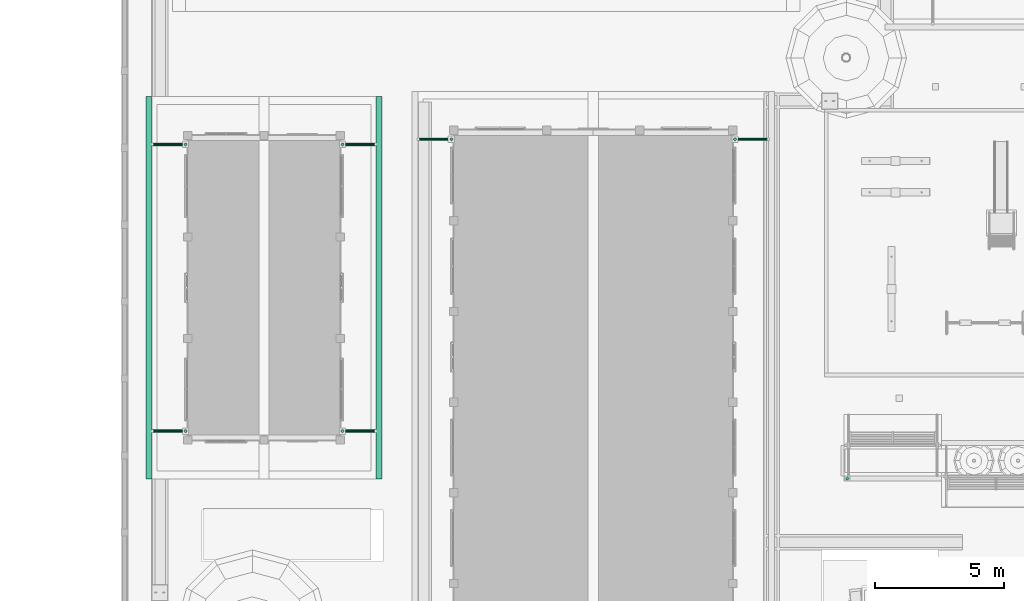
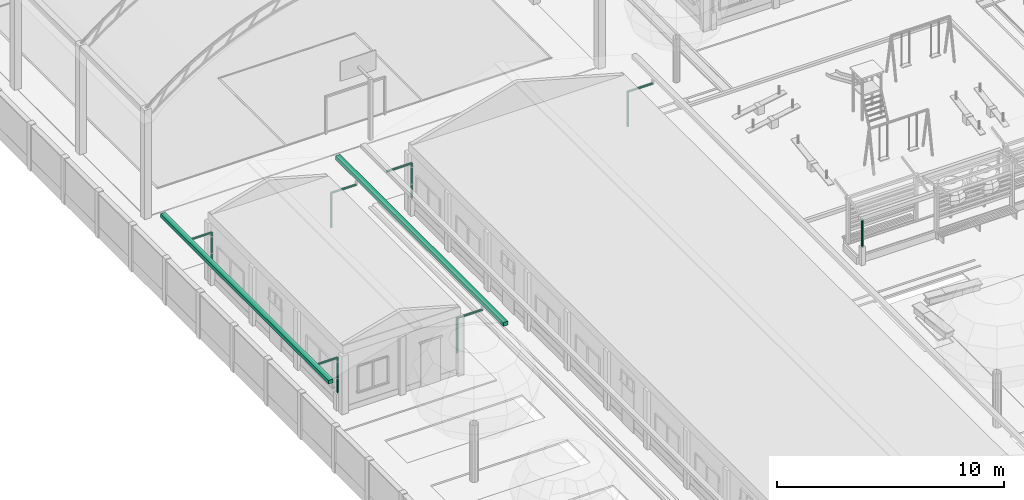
# One storey, part 104 of 177: 15 pipe segments.
"""IFC4 building model written with IfcOpenShell, lengths in metres."""

from ifc_helpers import new_model, si_unit, origin, origin_with_axes, place, context, subcontext, project, spatial, triangles, element, save


model = new_model("IFC4")

# Units and contexts
model_context = context("Model", 3, precision=1e-05, world=origin_with_axes())
body_context = subcontext(model_context, "Body", "Model", "MODEL_VIEW")
ifc_project = project(units=[si_unit("LENGTHUNIT", "METRE"), si_unit("AREAUNIT", "SQUARE_METRE"), si_unit("VOLUMEUNIT", "CUBIC_METRE"), si_unit("PLANEANGLEUNIT", "RADIAN")], contexts=[model_context])

# Site, building, storey
site_placement = place(None, origin_with_axes())
site = spatial("IfcSite", under=ifc_project, at=site_placement, Name="Predio Los Mangos - Morales, San Martín", CompositionType="ELEMENT")
building_placement = place(site_placement, origin())
building = spatial("IfcBuilding", under=site, at=building_placement, Name="Hogar de Refugio Temporal", CompositionType="ELEMENT")
storey_placement = place(building_placement, origin())
storey = spatial("IfcBuildingStorey", under=building, at=storey_placement, Name="NIVEL 1 (NPT +0.00)", CompositionType="ELEMENT", Elevation=0.0)

# Pipe segments
pipe_segment_1_placement = place(storey_placement, origin())
element("IfcPipeSegment", 1, at=pipe_segment_1_placement, inside=storey, Name="E-09_canaleta", ObjectType="Canaleta", PredefinedType="GUTTER", context=body_context, shape_type="Tessellation", body=[
    triangles([(1.88, 73.7, 3.13), (2.12, 73.7, 3.13), (2.12, 88.5, 3.13), (1.88, 88.5, 3.13), (1.88, 73.7, 3.33), (2.12, 73.7, 3.33), (2.12, 88.5, 3.33), (1.88, 88.5, 3.33)], [[1, 4, 3], [1, 3, 2], [5, 6, 7], [5, 7, 8], [1, 2, 6], [1, 6, 5], [2, 3, 7], [2, 7, 6], [3, 4, 8], [3, 8, 7], [4, 1, 5], [4, 5, 8]]),
])
pipe_segment_2_placement = place(storey_placement, origin())
element("IfcPipeSegment", 2, at=pipe_segment_2_placement, inside=storey, Name="E-09_canaleta", ObjectType="Canaleta", PredefinedType="GUTTER", context=body_context, shape_type="Tessellation", body=[
    triangles([(10.78, 73.7, 3.13), (11.02, 73.7, 3.13), (11.02, 88.5, 3.13), (10.78, 88.5, 3.13), (10.78, 73.7, 3.33), (11.02, 73.7, 3.33), (11.02, 88.5, 3.33), (10.78, 88.5, 3.33)], [[1, 4, 3], [1, 3, 2], [5, 6, 7], [5, 7, 8], [1, 2, 6], [1, 6, 5], [2, 3, 7], [2, 7, 6], [3, 4, 8], [3, 8, 7], [4, 1, 5], [4, 5, 8]]),
])
pipe_segment_3_placement = place(storey_placement, origin())
element("IfcPipeSegment", 3, at=pipe_segment_3_placement, inside=storey, Name="montante_desvio", ObjectType="Montante PVC 4\"", PredefinedType="RIGIDSEGMENT", context=body_context, shape_type="Tessellation", body=[
    triangles([(12.42, 86.85, 2.965), (13.71, 86.85, 2.965), (12.42, 86.8775, 2.9576), (13.71, 86.8775, 2.9576), (12.42, 86.8976, 2.9375), (13.71, 86.8976, 2.9375), (12.42, 86.905, 2.91), (13.71, 86.905, 2.91), (12.42, 86.8976, 2.8825), (13.71, 86.8976, 2.8825), (12.42, 86.8775, 2.8624), (13.71, 86.8775, 2.8624), (12.42, 86.85, 2.855), (13.71, 86.85, 2.855), (12.42, 86.8225, 2.8624), (13.71, 86.8225, 2.8624), (12.42, 86.8024, 2.8825), (13.71, 86.8024, 2.8825), (12.42, 86.795, 2.91), (13.71, 86.795, 2.91), (12.42, 86.8024, 2.9375), (13.71, 86.8024, 2.9375), (12.42, 86.8225, 2.9576), (13.71, 86.8225, 2.9576)], [[1, 2, 4], [1, 4, 3], [3, 4, 6], [3, 6, 5], [5, 6, 8], [5, 8, 7], [7, 8, 10], [7, 10, 9], [9, 10, 12], [9, 12, 11], [11, 12, 14], [11, 14, 13], [13, 14, 16], [13, 16, 15], [15, 16, 18], [15, 18, 17], [17, 18, 20], [17, 20, 19], [19, 20, 22], [19, 22, 21], [6, 4, 2], [2, 24, 22], [22, 20, 18], [18, 16, 14], [14, 12, 10], [10, 8, 6], [6, 2, 22], [22, 18, 14], [14, 10, 6], [22, 14, 6], [21, 22, 24], [21, 24, 23], [23, 24, 2], [23, 2, 1], [23, 1, 3], [3, 5, 7], [7, 9, 11], [11, 13, 15], [15, 17, 19], [19, 21, 23], [23, 3, 7], [7, 11, 15], [15, 19, 23], [7, 15, 23]]),
])
pipe_segment_4_placement = place(storey_placement, origin())
element("IfcPipeSegment", 4, at=pipe_segment_4_placement, inside=storey, Name="montante_bajada", ObjectType="Montante PVC 4\"", PredefinedType="RIGIDSEGMENT", context=body_context, shape_type="Tessellation", body=[
    triangles([(13.71, 86.905, 2.91), (13.71, 86.905, 1.05), (13.6825, 86.8976, 2.91), (13.6825, 86.8976, 1.05), (13.6624, 86.8775, 2.91), (13.6624, 86.8775, 1.05), (13.655, 86.85, 2.91), (13.655, 86.85, 1.05), (13.6624, 86.8225, 2.91), (13.6624, 86.8225, 1.05), (13.6825, 86.8024, 2.91), (13.6825, 86.8024, 1.05), (13.71, 86.795, 2.91), (13.71, 86.795, 1.05), (13.7375, 86.8024, 2.91), (13.7375, 86.8024, 1.05), (13.7576, 86.8225, 2.91), (13.7576, 86.8225, 1.05), (13.765, 86.85, 2.91), (13.765, 86.85, 1.05), (13.7576, 86.8775, 2.91), (13.7576, 86.8775, 1.05), (13.7375, 86.8976, 2.91), (13.7375, 86.8976, 1.05)], [[1, 2, 4], [1, 4, 3], [3, 4, 6], [3, 6, 5], [5, 6, 8], [5, 8, 7], [7, 8, 10], [7, 10, 9], [9, 10, 12], [9, 12, 11], [11, 12, 14], [11, 14, 13], [13, 14, 16], [13, 16, 15], [15, 16, 18], [15, 18, 17], [17, 18, 20], [17, 20, 19], [19, 20, 22], [19, 22, 21], [6, 4, 2], [2, 24, 22], [22, 20, 18], [18, 16, 14], [14, 12, 10], [10, 8, 6], [6, 2, 22], [22, 18, 14], [14, 10, 6], [22, 14, 6], [21, 22, 24], [21, 24, 23], [23, 24, 2], [23, 2, 1], [23, 1, 3], [3, 5, 7], [7, 9, 11], [11, 13, 15], [15, 17, 19], [19, 21, 23], [23, 3, 7], [7, 11, 15], [15, 19, 23], [7, 15, 23]]),
])
pipe_segment_5_placement = place(storey_placement, origin())
element("IfcPipeSegment", 5, at=pipe_segment_5_placement, inside=storey, Name="montante_desvio", ObjectType="Montante PVC 4\"", PredefinedType="RIGIDSEGMENT", context=body_context, shape_type="Tessellation", body=[
    triangles([(25.98, 86.85, 2.965), (24.69, 86.85, 2.965), (25.98, 86.8225, 2.9576), (24.69, 86.8225, 2.9576), (25.98, 86.8024, 2.9375), (24.69, 86.8024, 2.9375), (25.98, 86.795, 2.91), (24.69, 86.795, 2.91), (25.98, 86.8024, 2.8825), (24.69, 86.8024, 2.8825), (25.98, 86.8225, 2.8624), (24.69, 86.8225, 2.8624), (25.98, 86.85, 2.855), (24.69, 86.85, 2.855), (25.98, 86.8775, 2.8624), (24.69, 86.8775, 2.8624), (25.98, 86.8976, 2.8825), (24.69, 86.8976, 2.8825), (25.98, 86.905, 2.91), (24.69, 86.905, 2.91), (25.98, 86.8976, 2.9375), (24.69, 86.8976, 2.9375), (25.98, 86.8775, 2.9576), (24.69, 86.8775, 2.9576)], [[1, 2, 4], [1, 4, 3], [3, 4, 6], [3, 6, 5], [5, 6, 8], [5, 8, 7], [7, 8, 10], [7, 10, 9], [9, 10, 12], [9, 12, 11], [11, 12, 14], [11, 14, 13], [13, 14, 16], [13, 16, 15], [15, 16, 18], [15, 18, 17], [17, 18, 20], [17, 20, 19], [19, 20, 22], [19, 22, 21], [6, 4, 2], [2, 24, 22], [22, 20, 18], [18, 16, 14], [14, 12, 10], [10, 8, 6], [6, 2, 22], [22, 18, 14], [14, 10, 6], [22, 14, 6], [21, 22, 24], [21, 24, 23], [23, 24, 2], [23, 2, 1], [23, 1, 3], [3, 5, 7], [7, 9, 11], [11, 13, 15], [15, 17, 19], [19, 21, 23], [23, 3, 7], [7, 11, 15], [15, 19, 23], [7, 15, 23]]),
])
pipe_segment_6_placement = place(storey_placement, origin())
element("IfcPipeSegment", 6, at=pipe_segment_6_placement, inside=storey, Name="montante_bajada", ObjectType="Montante PVC 4\"", PredefinedType="RIGIDSEGMENT", context=body_context, shape_type="Tessellation", body=[
    triangles([(24.69, 86.905, 2.91), (24.69, 86.905, 1.05), (24.6625, 86.8976, 2.91), (24.6625, 86.8976, 1.05), (24.6424, 86.8775, 2.91), (24.6424, 86.8775, 1.05), (24.635, 86.85, 2.91), (24.635, 86.85, 1.05), (24.6424, 86.8225, 2.91), (24.6424, 86.8225, 1.05), (24.6625, 86.8024, 2.91), (24.6625, 86.8024, 1.05), (24.69, 86.795, 2.91), (24.69, 86.795, 1.05), (24.7175, 86.8024, 2.91), (24.7175, 86.8024, 1.05), (24.7376, 86.8225, 2.91), (24.7376, 86.8225, 1.05), (24.745, 86.85, 2.91), (24.745, 86.85, 1.05), (24.7376, 86.8775, 2.91), (24.7376, 86.8775, 1.05), (24.7175, 86.8976, 2.91), (24.7175, 86.8976, 1.05)], [[1, 2, 4], [1, 4, 3], [3, 4, 6], [3, 6, 5], [5, 6, 8], [5, 8, 7], [7, 8, 10], [7, 10, 9], [9, 10, 12], [9, 12, 11], [11, 12, 14], [11, 14, 13], [13, 14, 16], [13, 16, 15], [15, 16, 18], [15, 18, 17], [17, 18, 20], [17, 20, 19], [19, 20, 22], [19, 22, 21], [6, 4, 2], [2, 24, 22], [22, 20, 18], [18, 16, 14], [14, 12, 10], [10, 8, 6], [6, 2, 22], [22, 18, 14], [14, 10, 6], [22, 14, 6], [21, 22, 24], [21, 24, 23], [23, 24, 2], [23, 2, 1], [23, 1, 3], [3, 5, 7], [7, 9, 11], [11, 13, 15], [15, 17, 19], [19, 21, 23], [23, 3, 7], [7, 11, 15], [15, 19, 23], [7, 15, 23]]),
])
pipe_segment_7_placement = place(storey_placement, origin())
element("IfcPipeSegment", 7, at=pipe_segment_7_placement, inside=storey, Name="montante_desvio", ObjectType="Montante PVC 4\"", PredefinedType="RIGIDSEGMENT", context=body_context, shape_type="Tessellation", body=[
    triangles([(2.12, 75.55, 2.965), (3.41, 75.55, 2.965), (2.12, 75.5775, 2.9576), (3.41, 75.5775, 2.9576), (2.12, 75.5976, 2.9375), (3.41, 75.5976, 2.9375), (2.12, 75.605, 2.91), (3.41, 75.605, 2.91), (2.12, 75.5976, 2.8825), (3.41, 75.5976, 2.8825), (2.12, 75.5775, 2.8624), (3.41, 75.5775, 2.8624), (2.12, 75.55, 2.855), (3.41, 75.55, 2.855), (2.12, 75.5225, 2.8624), (3.41, 75.5225, 2.8624), (2.12, 75.5024, 2.8825), (3.41, 75.5024, 2.8825), (2.12, 75.495, 2.91), (3.41, 75.495, 2.91), (2.12, 75.5024, 2.9375), (3.41, 75.5024, 2.9375), (2.12, 75.5225, 2.9576), (3.41, 75.5225, 2.9576)], [[1, 2, 4], [1, 4, 3], [3, 4, 6], [3, 6, 5], [5, 6, 8], [5, 8, 7], [7, 8, 10], [7, 10, 9], [9, 10, 12], [9, 12, 11], [11, 12, 14], [11, 14, 13], [13, 14, 16], [13, 16, 15], [15, 16, 18], [15, 18, 17], [17, 18, 20], [17, 20, 19], [19, 20, 22], [19, 22, 21], [6, 4, 2], [2, 24, 22], [22, 20, 18], [18, 16, 14], [14, 12, 10], [10, 8, 6], [6, 2, 22], [22, 18, 14], [14, 10, 6], [22, 14, 6], [21, 22, 24], [21, 24, 23], [23, 24, 2], [23, 2, 1], [23, 1, 3], [3, 5, 7], [7, 9, 11], [11, 13, 15], [15, 17, 19], [19, 21, 23], [23, 3, 7], [7, 11, 15], [15, 19, 23], [7, 15, 23]]),
])
pipe_segment_8_placement = place(storey_placement, origin())
element("IfcPipeSegment", 8, at=pipe_segment_8_placement, inside=storey, Name="montante_bajada", ObjectType="Montante PVC 4\"", PredefinedType="RIGIDSEGMENT", context=body_context, shape_type="Tessellation", body=[
    triangles([(3.41, 75.605, 2.91), (3.41, 75.605, 1.05), (3.3825, 75.5976, 2.91), (3.3825, 75.5976, 1.05), (3.3624, 75.5775, 2.91), (3.3624, 75.5775, 1.05), (3.355, 75.55, 2.91), (3.355, 75.55, 1.05), (3.3624, 75.5225, 2.91), (3.3624, 75.5225, 1.05), (3.3825, 75.5024, 2.91), (3.3825, 75.5024, 1.05), (3.41, 75.495, 2.91), (3.41, 75.495, 1.05), (3.4375, 75.5024, 2.91), (3.4375, 75.5024, 1.05), (3.4576, 75.5225, 2.91), (3.4576, 75.5225, 1.05), (3.465, 75.55, 2.91), (3.465, 75.55, 1.05), (3.4576, 75.5775, 2.91), (3.4576, 75.5775, 1.05), (3.4375, 75.5976, 2.91), (3.4375, 75.5976, 1.05)], [[1, 2, 4], [1, 4, 3], [3, 4, 6], [3, 6, 5], [5, 6, 8], [5, 8, 7], [7, 8, 10], [7, 10, 9], [9, 10, 12], [9, 12, 11], [11, 12, 14], [11, 14, 13], [13, 14, 16], [13, 16, 15], [15, 16, 18], [15, 18, 17], [17, 18, 20], [17, 20, 19], [19, 20, 22], [19, 22, 21], [6, 4, 2], [2, 24, 22], [22, 20, 18], [18, 16, 14], [14, 12, 10], [10, 8, 6], [6, 2, 22], [22, 18, 14], [14, 10, 6], [22, 14, 6], [21, 22, 24], [21, 24, 23], [23, 24, 2], [23, 2, 1], [23, 1, 3], [3, 5, 7], [7, 9, 11], [11, 13, 15], [15, 17, 19], [19, 21, 23], [23, 3, 7], [7, 11, 15], [15, 19, 23], [7, 15, 23]]),
])
pipe_segment_9_placement = place(storey_placement, origin())
element("IfcPipeSegment", 9, at=pipe_segment_9_placement, inside=storey, Name="montante_desvio", ObjectType="Montante PVC 4\"", PredefinedType="RIGIDSEGMENT", context=body_context, shape_type="Tessellation", body=[
    triangles([(2.12, 86.65, 2.965), (3.41, 86.65, 2.965), (2.12, 86.6775, 2.9576), (3.41, 86.6775, 2.9576), (2.12, 86.6976, 2.9375), (3.41, 86.6976, 2.9375), (2.12, 86.705, 2.91), (3.41, 86.705, 2.91), (2.12, 86.6976, 2.8825), (3.41, 86.6976, 2.8825), (2.12, 86.6775, 2.8624), (3.41, 86.6775, 2.8624), (2.12, 86.65, 2.855), (3.41, 86.65, 2.855), (2.12, 86.6225, 2.8624), (3.41, 86.6225, 2.8624), (2.12, 86.6024, 2.8825), (3.41, 86.6024, 2.8825), (2.12, 86.595, 2.91), (3.41, 86.595, 2.91), (2.12, 86.6024, 2.9375), (3.41, 86.6024, 2.9375), (2.12, 86.6225, 2.9576), (3.41, 86.6225, 2.9576)], [[1, 2, 4], [1, 4, 3], [3, 4, 6], [3, 6, 5], [5, 6, 8], [5, 8, 7], [7, 8, 10], [7, 10, 9], [9, 10, 12], [9, 12, 11], [11, 12, 14], [11, 14, 13], [13, 14, 16], [13, 16, 15], [15, 16, 18], [15, 18, 17], [17, 18, 20], [17, 20, 19], [19, 20, 22], [19, 22, 21], [6, 4, 2], [2, 24, 22], [22, 20, 18], [18, 16, 14], [14, 12, 10], [10, 8, 6], [6, 2, 22], [22, 18, 14], [14, 10, 6], [22, 14, 6], [21, 22, 24], [21, 24, 23], [23, 24, 2], [23, 2, 1], [23, 1, 3], [3, 5, 7], [7, 9, 11], [11, 13, 15], [15, 17, 19], [19, 21, 23], [23, 3, 7], [7, 11, 15], [15, 19, 23], [7, 15, 23]]),
])
pipe_segment_10_placement = place(storey_placement, origin())
element("IfcPipeSegment", 10, at=pipe_segment_10_placement, inside=storey, Name="montante_bajada", ObjectType="Montante PVC 4\"", PredefinedType="RIGIDSEGMENT", context=body_context, shape_type="Tessellation", body=[
    triangles([(3.41, 86.705, 2.91), (3.41, 86.705, 1.05), (3.3825, 86.6976, 2.91), (3.3825, 86.6976, 1.05), (3.3624, 86.6775, 2.91), (3.3624, 86.6775, 1.05), (3.355, 86.65, 2.91), (3.355, 86.65, 1.05), (3.3624, 86.6225, 2.91), (3.3624, 86.6225, 1.05), (3.3825, 86.6024, 2.91), (3.3825, 86.6024, 1.05), (3.41, 86.595, 2.91), (3.41, 86.595, 1.05), (3.4375, 86.6024, 2.91), (3.4375, 86.6024, 1.05), (3.4576, 86.6225, 2.91), (3.4576, 86.6225, 1.05), (3.465, 86.65, 2.91), (3.465, 86.65, 1.05), (3.4576, 86.6775, 2.91), (3.4576, 86.6775, 1.05), (3.4375, 86.6976, 2.91), (3.4375, 86.6976, 1.05)], [[1, 2, 4], [1, 4, 3], [3, 4, 6], [3, 6, 5], [5, 6, 8], [5, 8, 7], [7, 8, 10], [7, 10, 9], [9, 10, 12], [9, 12, 11], [11, 12, 14], [11, 14, 13], [13, 14, 16], [13, 16, 15], [15, 16, 18], [15, 18, 17], [17, 18, 20], [17, 20, 19], [19, 20, 22], [19, 22, 21], [6, 4, 2], [2, 24, 22], [22, 20, 18], [18, 16, 14], [14, 12, 10], [10, 8, 6], [6, 2, 22], [22, 18, 14], [14, 10, 6], [22, 14, 6], [21, 22, 24], [21, 24, 23], [23, 24, 2], [23, 2, 1], [23, 1, 3], [3, 5, 7], [7, 9, 11], [11, 13, 15], [15, 17, 19], [19, 21, 23], [23, 3, 7], [7, 11, 15], [15, 19, 23], [7, 15, 23]]),
])
pipe_segment_11_placement = place(storey_placement, origin())
element("IfcPipeSegment", 11, at=pipe_segment_11_placement, inside=storey, Name="montante_desvio", ObjectType="Montante PVC 4\"", PredefinedType="RIGIDSEGMENT", context=body_context, shape_type="Tessellation", body=[
    triangles([(10.78, 75.55, 2.965), (9.49, 75.55, 2.965), (10.78, 75.5225, 2.9576), (9.49, 75.5225, 2.9576), (10.78, 75.5024, 2.9375), (9.49, 75.5024, 2.9375), (10.78, 75.495, 2.91), (9.49, 75.495, 2.91), (10.78, 75.5024, 2.8825), (9.49, 75.5024, 2.8825), (10.78, 75.5225, 2.8624), (9.49, 75.5225, 2.8624), (10.78, 75.55, 2.855), (9.49, 75.55, 2.855), (10.78, 75.5775, 2.8624), (9.49, 75.5775, 2.8624), (10.78, 75.5976, 2.8825), (9.49, 75.5976, 2.8825), (10.78, 75.605, 2.91), (9.49, 75.605, 2.91), (10.78, 75.5976, 2.9375), (9.49, 75.5976, 2.9375), (10.78, 75.5775, 2.9576), (9.49, 75.5775, 2.9576)], [[1, 2, 4], [1, 4, 3], [3, 4, 6], [3, 6, 5], [5, 6, 8], [5, 8, 7], [7, 8, 10], [7, 10, 9], [9, 10, 12], [9, 12, 11], [11, 12, 14], [11, 14, 13], [13, 14, 16], [13, 16, 15], [15, 16, 18], [15, 18, 17], [17, 18, 20], [17, 20, 19], [19, 20, 22], [19, 22, 21], [6, 4, 2], [2, 24, 22], [22, 20, 18], [18, 16, 14], [14, 12, 10], [10, 8, 6], [6, 2, 22], [22, 18, 14], [14, 10, 6], [22, 14, 6], [21, 22, 24], [21, 24, 23], [23, 24, 2], [23, 2, 1], [23, 1, 3], [3, 5, 7], [7, 9, 11], [11, 13, 15], [15, 17, 19], [19, 21, 23], [23, 3, 7], [7, 11, 15], [15, 19, 23], [7, 15, 23]]),
])
pipe_segment_12_placement = place(storey_placement, origin())
element("IfcPipeSegment", 12, at=pipe_segment_12_placement, inside=storey, Name="montante_bajada", ObjectType="Montante PVC 4\"", PredefinedType="RIGIDSEGMENT", context=body_context, shape_type="Tessellation", body=[
    triangles([(9.49, 75.605, 2.91), (9.49, 75.605, 1.05), (9.4625, 75.5976, 2.91), (9.4625, 75.5976, 1.05), (9.4424, 75.5775, 2.91), (9.4424, 75.5775, 1.05), (9.435, 75.55, 2.91), (9.435, 75.55, 1.05), (9.4424, 75.5225, 2.91), (9.4424, 75.5225, 1.05), (9.4625, 75.5024, 2.91), (9.4625, 75.5024, 1.05), (9.49, 75.495, 2.91), (9.49, 75.495, 1.05), (9.5175, 75.5024, 2.91), (9.5175, 75.5024, 1.05), (9.5376, 75.5225, 2.91), (9.5376, 75.5225, 1.05), (9.545, 75.55, 2.91), (9.545, 75.55, 1.05), (9.5376, 75.5775, 2.91), (9.5376, 75.5775, 1.05), (9.5175, 75.5976, 2.91), (9.5175, 75.5976, 1.05)], [[1, 2, 4], [1, 4, 3], [3, 4, 6], [3, 6, 5], [5, 6, 8], [5, 8, 7], [7, 8, 10], [7, 10, 9], [9, 10, 12], [9, 12, 11], [11, 12, 14], [11, 14, 13], [13, 14, 16], [13, 16, 15], [15, 16, 18], [15, 18, 17], [17, 18, 20], [17, 20, 19], [19, 20, 22], [19, 22, 21], [6, 4, 2], [2, 24, 22], [22, 20, 18], [18, 16, 14], [14, 12, 10], [10, 8, 6], [6, 2, 22], [22, 18, 14], [14, 10, 6], [22, 14, 6], [21, 22, 24], [21, 24, 23], [23, 24, 2], [23, 2, 1], [23, 1, 3], [3, 5, 7], [7, 9, 11], [11, 13, 15], [15, 17, 19], [19, 21, 23], [23, 3, 7], [7, 11, 15], [15, 19, 23], [7, 15, 23]]),
])
pipe_segment_13_placement = place(storey_placement, origin())
element("IfcPipeSegment", 13, at=pipe_segment_13_placement, inside=storey, Name="montante_desvio", ObjectType="Montante PVC 4\"", PredefinedType="RIGIDSEGMENT", context=body_context, shape_type="Tessellation", body=[
    triangles([(10.78, 86.65, 2.965), (9.49, 86.65, 2.965), (10.78, 86.6225, 2.9576), (9.49, 86.6225, 2.9576), (10.78, 86.6024, 2.9375), (9.49, 86.6024, 2.9375), (10.78, 86.595, 2.91), (9.49, 86.595, 2.91), (10.78, 86.6024, 2.8825), (9.49, 86.6024, 2.8825), (10.78, 86.6225, 2.8624), (9.49, 86.6225, 2.8624), (10.78, 86.65, 2.855), (9.49, 86.65, 2.855), (10.78, 86.6775, 2.8624), (9.49, 86.6775, 2.8624), (10.78, 86.6976, 2.8825), (9.49, 86.6976, 2.8825), (10.78, 86.705, 2.91), (9.49, 86.705, 2.91), (10.78, 86.6976, 2.9375), (9.49, 86.6976, 2.9375), (10.78, 86.6775, 2.9576), (9.49, 86.6775, 2.9576)], [[1, 2, 4], [1, 4, 3], [3, 4, 6], [3, 6, 5], [5, 6, 8], [5, 8, 7], [7, 8, 10], [7, 10, 9], [9, 10, 12], [9, 12, 11], [11, 12, 14], [11, 14, 13], [13, 14, 16], [13, 16, 15], [15, 16, 18], [15, 18, 17], [17, 18, 20], [17, 20, 19], [19, 20, 22], [19, 22, 21], [6, 4, 2], [2, 24, 22], [22, 20, 18], [18, 16, 14], [14, 12, 10], [10, 8, 6], [6, 2, 22], [22, 18, 14], [14, 10, 6], [22, 14, 6], [21, 22, 24], [21, 24, 23], [23, 24, 2], [23, 2, 1], [23, 1, 3], [3, 5, 7], [7, 9, 11], [11, 13, 15], [15, 17, 19], [19, 21, 23], [23, 3, 7], [7, 11, 15], [15, 19, 23], [7, 15, 23]]),
])
pipe_segment_14_placement = place(storey_placement, origin())
element("IfcPipeSegment", 14, at=pipe_segment_14_placement, inside=storey, Name="montante_bajada", ObjectType="Montante PVC 4\"", PredefinedType="RIGIDSEGMENT", context=body_context, shape_type="Tessellation", body=[
    triangles([(9.49, 86.705, 2.91), (9.49, 86.705, 1.05), (9.4625, 86.6976, 2.91), (9.4625, 86.6976, 1.05), (9.4424, 86.6775, 2.91), (9.4424, 86.6775, 1.05), (9.435, 86.65, 2.91), (9.435, 86.65, 1.05), (9.4424, 86.6225, 2.91), (9.4424, 86.6225, 1.05), (9.4625, 86.6024, 2.91), (9.4625, 86.6024, 1.05), (9.49, 86.595, 2.91), (9.49, 86.595, 1.05), (9.5175, 86.6024, 2.91), (9.5175, 86.6024, 1.05), (9.5376, 86.6225, 2.91), (9.5376, 86.6225, 1.05), (9.545, 86.65, 2.91), (9.545, 86.65, 1.05), (9.5376, 86.6775, 2.91), (9.5376, 86.6775, 1.05), (9.5175, 86.6976, 2.91), (9.5175, 86.6976, 1.05)], [[1, 2, 4], [1, 4, 3], [3, 4, 6], [3, 6, 5], [5, 6, 8], [5, 8, 7], [7, 8, 10], [7, 10, 9], [9, 10, 12], [9, 12, 11], [11, 12, 14], [11, 14, 13], [13, 14, 16], [13, 16, 15], [15, 16, 18], [15, 18, 17], [17, 18, 20], [17, 20, 19], [19, 20, 22], [19, 22, 21], [6, 4, 2], [2, 24, 22], [22, 20, 18], [18, 16, 14], [14, 12, 10], [10, 8, 6], [6, 2, 22], [22, 18, 14], [14, 10, 6], [22, 14, 6], [21, 22, 24], [21, 24, 23], [23, 24, 2], [23, 2, 1], [23, 1, 3], [3, 5, 7], [7, 9, 11], [11, 13, 15], [15, 17, 19], [19, 21, 23], [23, 3, 7], [7, 11, 15], [15, 19, 23], [7, 15, 23]]),
])
pipe_segment_15_placement = place(storey_placement, origin())
element("IfcPipeSegment", 15, at=pipe_segment_15_placement, inside=storey, Name="oc01_bajada", ObjectType="Montante PVC 4\"", PredefinedType="RIGIDSEGMENT", context=body_context, shape_type="Tessellation", body=[
    triangles([(29.045, 73.765, 2.49), (29.045, 73.765, 1.05), (29.0175, 73.7576, 2.49), (29.0175, 73.7576, 1.05), (28.9974, 73.7375, 2.49), (28.9974, 73.7375, 1.05), (28.99, 73.71, 2.49), (28.99, 73.71, 1.05), (28.9974, 73.6825, 2.49), (28.9974, 73.6825, 1.05), (29.0175, 73.6624, 2.49), (29.0175, 73.6624, 1.05), (29.045, 73.655, 2.49), (29.045, 73.655, 1.05), (29.0725, 73.6624, 2.49), (29.0725, 73.6624, 1.05), (29.0926, 73.6825, 2.49), (29.0926, 73.6825, 1.05), (29.1, 73.71, 2.49), (29.1, 73.71, 1.05), (29.0926, 73.7375, 2.49), (29.0926, 73.7375, 1.05), (29.0725, 73.7576, 2.49), (29.0725, 73.7576, 1.05)], [[1, 2, 4], [1, 4, 3], [3, 4, 6], [3, 6, 5], [5, 6, 8], [5, 8, 7], [7, 8, 10], [7, 10, 9], [9, 10, 12], [9, 12, 11], [11, 12, 14], [11, 14, 13], [13, 14, 16], [13, 16, 15], [15, 16, 18], [15, 18, 17], [17, 18, 20], [17, 20, 19], [19, 20, 22], [19, 22, 21], [6, 4, 2], [2, 24, 22], [22, 20, 18], [18, 16, 14], [14, 12, 10], [10, 8, 6], [6, 2, 22], [22, 18, 14], [14, 10, 6], [22, 14, 6], [21, 22, 24], [21, 24, 23], [23, 24, 2], [23, 2, 1], [23, 1, 3], [3, 5, 7], [7, 9, 11], [11, 13, 15], [15, 17, 19], [19, 21, 23], [23, 3, 7], [7, 11, 15], [15, 19, 23], [7, 15, 23]]),
])

save(model, "model.ifc")
